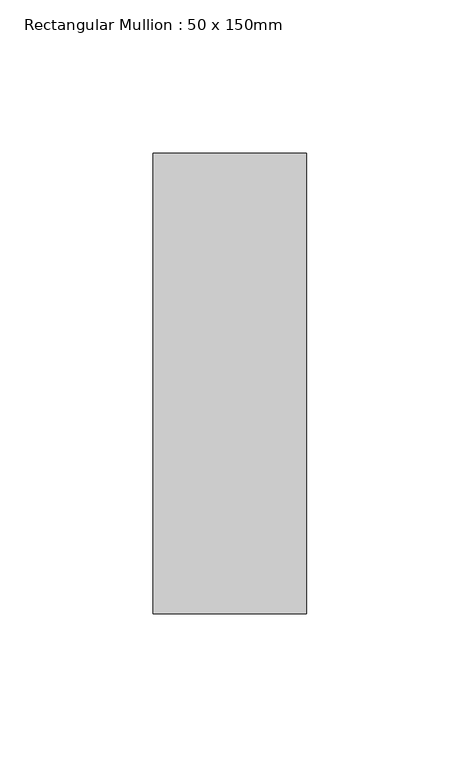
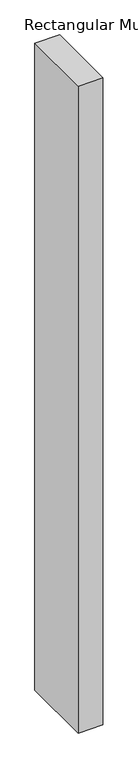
"""IFC4 building model written with IfcOpenShell, lengths in millimetres: member geometry, Rectangular Mullion : 50 x 150mm."""

from ifc_helpers import new_model, si_unit, frame, origin, place, context, project, spatial, polyline, outline, extrude, source, transform, mapped, element, save


def rectangular_mullion_50_x_150mm_e840ba38(model_context):
    return source(origin(), model_context, "Body", "SweptSolid", [
        extrude(outline(polyline([(25.0, 75.0), (25.0, -75.0), (-25.0, -75.0), (-25.0, 75.0), (25.0, 75.0)])), frame((0.0, 0.0, -1372.7225734), z_axis=(0.0, 0.0, 1.0), x_axis=(1.0, 0.0, 0.0)), (0.0, 0.0, 1.0), 1372.7225734),
    ])


if __name__ == "__main__":
    model = new_model("IFC4")
    model_context = context("Model", 3, world=origin())
    ifc_project = project(units=[si_unit("LENGTHUNIT", "METRE", prefix="MILLI")], contexts=[model_context])
    site = spatial("IfcSite", under=ifc_project)
    building = spatial("IfcBuilding", under=site)
    placement = place(None, origin())
    rectangular_mullion_50_x_150mm_shape = rectangular_mullion_50_x_150mm_e840ba38(model_context)
    element("IfcMember", 1, ObjectType="Rectangular Mullion : 50 x 150mm", at=placement, inside=building, context=model_context, shape_type="MappedRepresentation", body=[
        mapped(rectangular_mullion_50_x_150mm_shape, transform((0.0, 0.0, 0.0), x_axis=(1.0, 0.0, 0.0), y_axis=(0.0, 1.0, 0.0), z_axis=(0.0, 0.0, 1.0))),
    ])
    save(model, "model.ifc")
